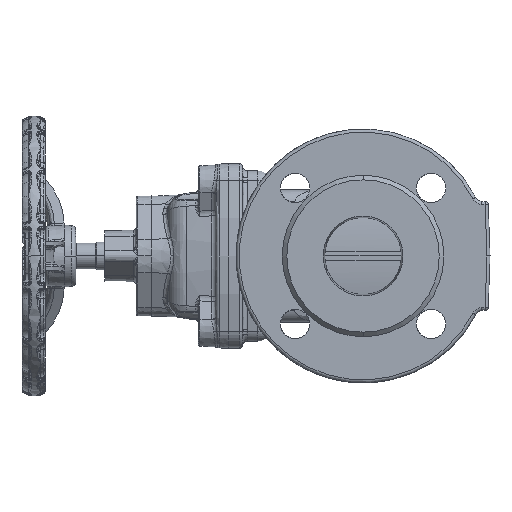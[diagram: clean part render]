
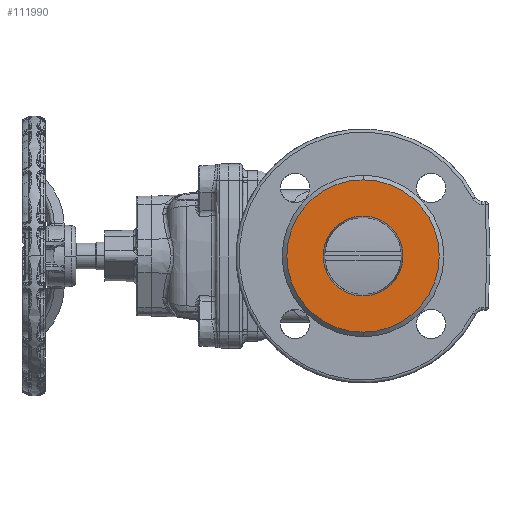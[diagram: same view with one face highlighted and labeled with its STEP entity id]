
A CAD part, left-side view. The second image highlights one B-rep face of the part: STEP entity #111990.
In plain terms, the highlighted planar face has unit normal (-1, 0, 0).
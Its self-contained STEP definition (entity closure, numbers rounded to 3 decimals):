
#5395 = EDGE_LOOP ( 'NONE', ( #15928, #104698 ) ) ;
#12191 = VERTEX_POINT ( 'NONE', #105925 ) ;
#15928 = ORIENTED_EDGE ( 'NONE', *, *, #59164, .T. ) ;
#15953 = DIRECTION ( 'NONE',  ( 1., 0., 0. ) ) ;
#21383 = CIRCLE ( 'NONE', #73459, 49.5 ) ;
#32772 = EDGE_LOOP ( 'NONE', ( #95787, #61261 ) ) ;
#36814 = CIRCLE ( 'NONE', #132874, 25.948 ) ;
#42247 = EDGE_CURVE ( 'NONE', #170443, #158777, #84312, .T. ) ;
#44816 = AXIS2_PLACEMENT_3D ( 'NONE', #116534, #130044, #146067 ) ;
#48864 = CARTESIAN_POINT ( 'NONE',  ( -75., -88.5, 0. ) ) ;
#54480 = CARTESIAN_POINT ( 'NONE',  ( -75., -88.5, 49.5 ) ) ;
#54844 = DIRECTION ( 'NONE',  ( 0., 0., -1. ) ) ;
#59164 = EDGE_CURVE ( 'NONE', #12191, #65387, #36814, .T. ) ;
#61261 = ORIENTED_EDGE ( 'NONE', *, *, #42247, .F. ) ;
#65387 = VERTEX_POINT ( 'NONE', #135421 ) ;
#73459 = AXIS2_PLACEMENT_3D ( 'NONE', #171959, #15953, #114863 ) ;
#81158 = FACE_OUTER_BOUND ( 'NONE', #32772, .T. ) ;
#83661 = CARTESIAN_POINT ( 'NONE',  ( -75., -88.5, 0. ) ) ;
#84312 = CIRCLE ( 'NONE', #133992, 49.5 ) ;
#95787 = ORIENTED_EDGE ( 'NONE', *, *, #115043, .F. ) ;
#100537 = PLANE ( 'NONE',  #44816 ) ;
#100743 = CARTESIAN_POINT ( 'NONE',  ( -75., -88.5, -49.5 ) ) ;
#104698 = ORIENTED_EDGE ( 'NONE', *, *, #123007, .T. ) ;
#105925 = CARTESIAN_POINT ( 'NONE',  ( -75., -114.448, 0. ) ) ;
#110586 = DIRECTION ( 'NONE',  ( 0., 0., -1. ) ) ;
#111990 = ADVANCED_FACE ( 'NONE', ( #166877, #81158 ), #100537, .T. ) ;
#114863 = DIRECTION ( 'NONE',  ( 0., 0., -1. ) ) ;
#115043 = EDGE_CURVE ( 'NONE', #158777, #170443, #21383, .T. ) ;
#116534 = CARTESIAN_POINT ( 'NONE',  ( -75., -39., 0. ) ) ;
#118938 = DIRECTION ( 'NONE',  ( 0., 0., -1. ) ) ;
#122892 = CARTESIAN_POINT ( 'NONE',  ( -75., -88.5, 0. ) ) ;
#123007 = EDGE_CURVE ( 'NONE', #65387, #12191, #154544, .T. ) ;
#130044 = DIRECTION ( 'NONE',  ( -1., 0., 0. ) ) ;
#132874 = AXIS2_PLACEMENT_3D ( 'NONE', #122892, #137062, #110586 ) ;
#133992 = AXIS2_PLACEMENT_3D ( 'NONE', #83661, #140273, #54844 ) ;
#135421 = CARTESIAN_POINT ( 'NONE',  ( -75., -62.552, 0. ) ) ;
#137062 = DIRECTION ( 'NONE',  ( 1., 0., 0. ) ) ;
#140273 = DIRECTION ( 'NONE',  ( 1., 0., 0. ) ) ;
#143957 = AXIS2_PLACEMENT_3D ( 'NONE', #48864, #148988, #118938 ) ;
#146067 = DIRECTION ( 'NONE',  ( 0., 0., -1. ) ) ;
#148988 = DIRECTION ( 'NONE',  ( 1., 0., 0. ) ) ;
#154544 = CIRCLE ( 'NONE', #143957, 25.948 ) ;
#158777 = VERTEX_POINT ( 'NONE', #54480 ) ;
#166877 = FACE_BOUND ( 'NONE', #5395, .T. ) ;
#170443 = VERTEX_POINT ( 'NONE', #100743 ) ;
#171959 = CARTESIAN_POINT ( 'NONE',  ( -75., -88.5, 0. ) ) ;
